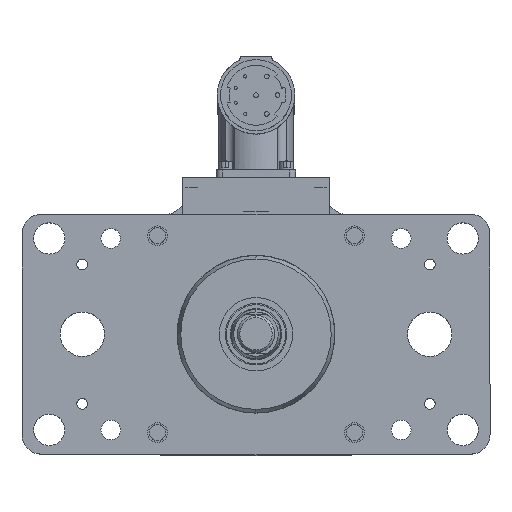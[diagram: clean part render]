
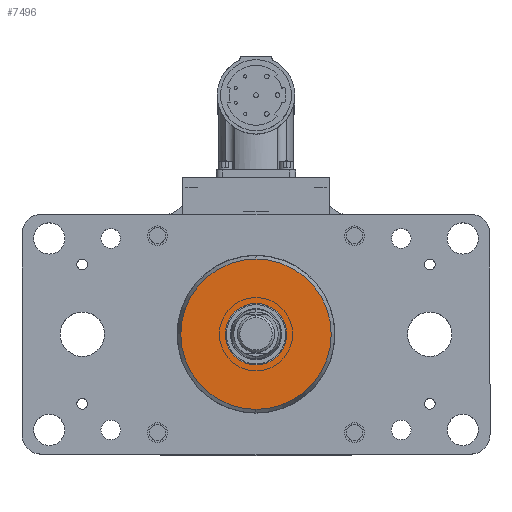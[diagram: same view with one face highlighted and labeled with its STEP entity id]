
A CAD part, top view. The second image highlights one B-rep face of the part: STEP entity #7496.
In plain terms, the highlighted planar face has unit normal (0, 0, 1).
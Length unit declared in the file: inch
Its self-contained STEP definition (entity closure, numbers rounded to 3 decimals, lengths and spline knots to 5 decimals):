
#5815 = EDGE_CURVE ( 'NONE', #5816, #5818, #22746, .T. ) ;
#5816 = VERTEX_POINT ( 'NONE', #22741 ) ;
#5818 = VERTEX_POINT ( 'NONE', #22740 ) ;
#6490 = VERTEX_POINT ( 'NONE', #20421 ) ;
#6559 = VERTEX_POINT ( 'NONE', #20751 ) ;
#6561 = EDGE_CURVE ( 'NONE', #6559, #6490, #20750, .T. ) ;
#7451 = EDGE_CURVE ( 'NONE', #5818, #5816, #22220, .T. ) ;
#7472 = ORIENTED_EDGE ( 'NONE', *, *, #5815, .T. ) ;
#7473 = EDGE_LOOP ( 'NONE', ( #7474, #7520 ) ) ;
#7474 = ORIENTED_EDGE ( 'NONE', *, *, #7519, .F. ) ;
#7496 = ADVANCED_FACE ( 'NONE', ( #22113, #22112 ), #22111, .T. ) ;
#7497 = EDGE_LOOP ( 'NONE', ( #7498, #7472 ) ) ;
#7498 = ORIENTED_EDGE ( 'NONE', *, *, #7451, .T. ) ;
#7519 = EDGE_CURVE ( 'NONE', #6490, #6559, #22073, .T. ) ;
#7520 = ORIENTED_EDGE ( 'NONE', *, *, #6561, .F. ) ;
#20421 = CARTESIAN_POINT ( 'NONE',  ( 0.39, 0., 0. ) ) ;
#20746 = DIRECTION ( 'NONE',  ( 1., 0., 0. ) ) ;
#20747 = DIRECTION ( 'NONE',  ( 0., 0., 1. ) ) ;
#20748 = CARTESIAN_POINT ( 'NONE',  ( 0., 0., 0. ) ) ;
#20749 = AXIS2_PLACEMENT_3D ( 'NONE', #20748, #20747, #20746 ) ;
#20750 = CIRCLE ( 'NONE', #20749, 0.39 ) ;
#20751 = CARTESIAN_POINT ( 'NONE',  ( -0.39, 0., 0. ) ) ;
#22069 = DIRECTION ( 'NONE',  ( 1., 0., 0. ) ) ;
#22070 = DIRECTION ( 'NONE',  ( 0., 0., 1. ) ) ;
#22071 = CARTESIAN_POINT ( 'NONE',  ( 0., 0., 0. ) ) ;
#22072 = AXIS2_PLACEMENT_3D ( 'NONE', #22071, #22070, #22069 ) ;
#22073 = CIRCLE ( 'NONE', #22072, 0.39 ) ;
#22106 = DIRECTION ( 'NONE',  ( 1., 0., 0. ) ) ;
#22107 = DIRECTION ( 'NONE',  ( 0., 0., 1. ) ) ;
#22108 = CARTESIAN_POINT ( 'NONE',  ( -1.273, 1.273, 0. ) ) ;
#22109 = AXIS2_PLACEMENT_3D ( 'NONE', #22108, #22107, #22106 ) ;
#22111 = PLANE ( 'NONE',  #22109 ) ;
#22112 = FACE_BOUND ( 'NONE', #7473, .T. ) ;
#22113 = FACE_OUTER_BOUND ( 'NONE', #7497, .T. ) ;
#22216 = DIRECTION ( 'NONE',  ( 1., 0., 0. ) ) ;
#22217 = DIRECTION ( 'NONE',  ( 0., 0., 1. ) ) ;
#22218 = CARTESIAN_POINT ( 'NONE',  ( 0., 0., 0. ) ) ;
#22219 = AXIS2_PLACEMENT_3D ( 'NONE', #22218, #22217, #22216 ) ;
#22220 = CIRCLE ( 'NONE', #22219, 0.9545 ) ;
#22740 = CARTESIAN_POINT ( 'NONE',  ( -0.9545, 0., 0. ) ) ;
#22741 = CARTESIAN_POINT ( 'NONE',  ( 0.9545, 0., 0. ) ) ;
#22742 = DIRECTION ( 'NONE',  ( 1., 0., 0. ) ) ;
#22743 = DIRECTION ( 'NONE',  ( 0., 0., 1. ) ) ;
#22744 = CARTESIAN_POINT ( 'NONE',  ( 0., 0., 0. ) ) ;
#22745 = AXIS2_PLACEMENT_3D ( 'NONE', #22744, #22743, #22742 ) ;
#22746 = CIRCLE ( 'NONE', #22745, 0.9545 ) ;
